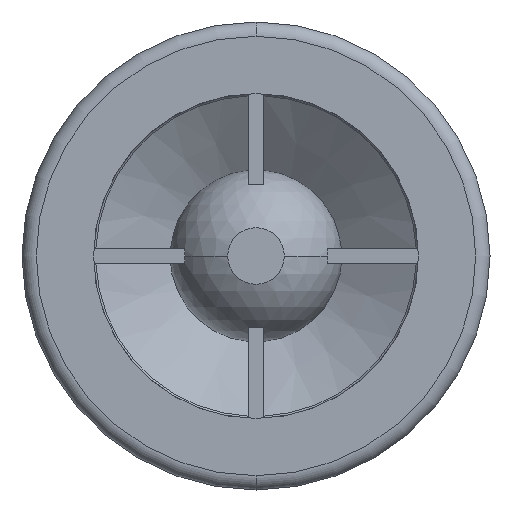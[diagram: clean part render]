
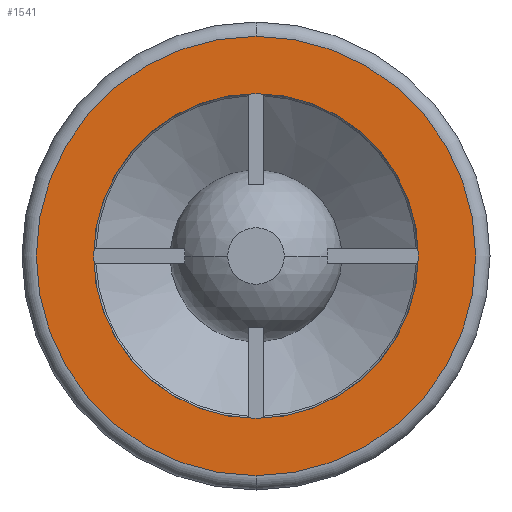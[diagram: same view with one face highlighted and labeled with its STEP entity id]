
A CAD part, front view. The second image highlights one B-rep face of the part: STEP entity #1541.
In plain terms, the highlighted planar face has unit normal (0, -1, 0).
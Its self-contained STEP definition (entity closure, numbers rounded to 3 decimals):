
#345 = CARTESIAN_POINT ( 'NONE',  ( 0., 0., -17. ) ) ;
#352 = DIRECTION ( 'NONE',  ( 0., 0., -1. ) ) ;
#353 = DIRECTION ( 'NONE',  ( 0., -1., 0. ) ) ;
#354 = CARTESIAN_POINT ( 'NONE',  ( 0., 0., 0. ) ) ;
#355 = AXIS2_PLACEMENT_3D ( 'NONE', #354, #353, #352 ) ;
#356 = CIRCLE ( 'NONE', #355, 17. ) ;
#507 = CARTESIAN_POINT ( 'NONE',  ( 0., 0., -23. ) ) ;
#508 = DIRECTION ( 'NONE',  ( 0., 0., 1. ) ) ;
#509 = DIRECTION ( 'NONE',  ( 0., -1., 0. ) ) ;
#510 = CARTESIAN_POINT ( 'NONE',  ( 0., 0., 0. ) ) ;
#511 = AXIS2_PLACEMENT_3D ( 'NONE', #510, #509, #508 ) ;
#512 = CIRCLE ( 'NONE', #511, 23. ) ;
#519 = CARTESIAN_POINT ( 'NONE',  ( 0., 0., 23. ) ) ;
#822 = CARTESIAN_POINT ( 'NONE',  ( 0., 0., 17. ) ) ;
#862 = CIRCLE ( 'NONE', #918, 17. ) ;
#915 = DIRECTION ( 'NONE',  ( 0., 0., -1. ) ) ;
#916 = DIRECTION ( 'NONE',  ( 0., -1., 0. ) ) ;
#917 = CARTESIAN_POINT ( 'NONE',  ( 0., 0., 0. ) ) ;
#918 = AXIS2_PLACEMENT_3D ( 'NONE', #917, #916, #915 ) ;
#1528 = ORIENTED_EDGE ( 'NONE', *, *, #1599, .T. ) ;
#1535 = EDGE_LOOP ( 'NONE', ( #1528, #1601 ) ) ;
#1541 = ADVANCED_FACE ( 'NONE', ( #2947, #2946 ), #2949, .F. ) ;
#1588 = ORIENTED_EDGE ( 'NONE', *, *, #1695, .F. ) ;
#1593 = ORIENTED_EDGE ( 'NONE', *, *, #1969, .F. ) ;
#1599 = EDGE_CURVE ( 'NONE', #1768, #1773, #3071, .T. ) ;
#1600 = EDGE_LOOP ( 'NONE', ( #1593, #1588 ) ) ;
#1601 = ORIENTED_EDGE ( 'NONE', *, *, #1771, .T. ) ;
#1695 = EDGE_CURVE ( 'NONE', #1929, #1698, #356, .T. ) ;
#1698 = VERTEX_POINT ( 'NONE', #345 ) ;
#1768 = VERTEX_POINT ( 'NONE', #519 ) ;
#1771 = EDGE_CURVE ( 'NONE', #1773, #1768, #512, .T. ) ;
#1773 = VERTEX_POINT ( 'NONE', #507 ) ;
#1929 = VERTEX_POINT ( 'NONE', #822 ) ;
#1969 = EDGE_CURVE ( 'NONE', #1698, #1929, #862, .T. ) ;
#2933 = DIRECTION ( 'NONE',  ( 0., 0., 1. ) ) ;
#2934 = DIRECTION ( 'NONE',  ( 0., 1., 0. ) ) ;
#2935 = CARTESIAN_POINT ( 'NONE',  ( -17., 0., 0. ) ) ;
#2937 = AXIS2_PLACEMENT_3D ( 'NONE', #2935, #2934, #2933 ) ;
#2946 = FACE_BOUND ( 'NONE', #1600, .T. ) ;
#2947 = FACE_OUTER_BOUND ( 'NONE', #1535, .T. ) ;
#2949 = PLANE ( 'NONE',  #2937 ) ;
#3062 = DIRECTION ( 'NONE',  ( 0., 0., 1. ) ) ;
#3063 = DIRECTION ( 'NONE',  ( 0., -1., 0. ) ) ;
#3064 = CARTESIAN_POINT ( 'NONE',  ( 0., 0., 0. ) ) ;
#3065 = AXIS2_PLACEMENT_3D ( 'NONE', #3064, #3063, #3062 ) ;
#3071 = CIRCLE ( 'NONE', #3065, 23. ) ;
